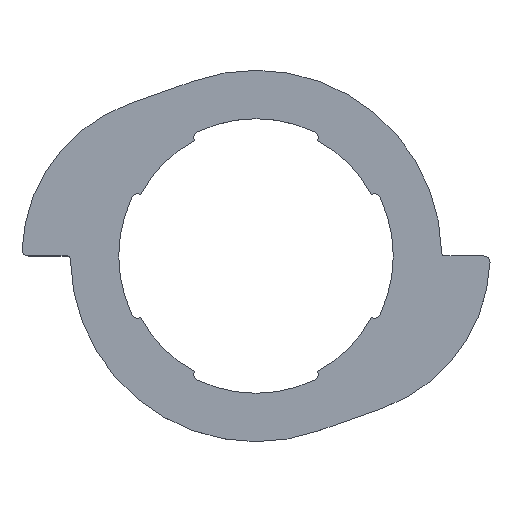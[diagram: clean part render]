
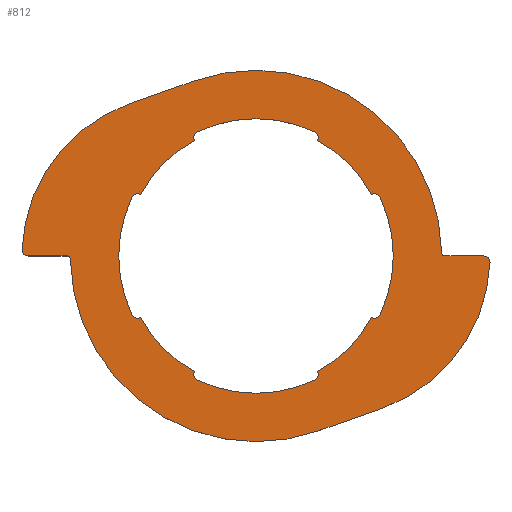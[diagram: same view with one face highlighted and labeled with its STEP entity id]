
A CAD part, top view. The second image highlights one B-rep face of the part: STEP entity #812.
In plain terms, the highlighted planar face has unit normal (0, 0, 1).
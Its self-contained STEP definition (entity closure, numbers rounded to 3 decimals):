
#116=CARTESIAN_POINT('',(58.491,1.,1.25));
#117=DIRECTION('',(0.,0.,-1.));
#118=DIRECTION('',(0.,-1.,0.));
#119=AXIS2_PLACEMENT_3D('',#116,#117,#118);
#150=CARTESIAN_POINT('',(-58.491,-1.,1.25));
#151=DIRECTION('',(0.,0.,-1.));
#152=DIRECTION('',(0.,1.,0.));
#153=AXIS2_PLACEMENT_3D('',#150,#151,#152);
#163=CARTESIAN_POINT('',(-22.5,0.,1.25));
#164=DIRECTION('',(0.,0.,1.));
#165=DIRECTION('',(-0.333,0.943,0.));
#166=AXIS2_PLACEMENT_3D('',#163,#164,#165);
#168=DIRECTION('',(-0.943,-0.333,0.));
#169=VECTOR('',#168,21.213);
#170=CARTESIAN_POINT('',(-19.167,54.212,1.25));
#171=LINE('',#170,#169);
#172=CARTESIAN_POINT('',(0.,0.,1.25));
#173=DIRECTION('',(0.,0.,1.));
#174=DIRECTION('',(1.,0.017,0.));
#175=AXIS2_PLACEMENT_3D('',#172,#173,#174);
#177=DIRECTION('',(-1.,0.,0.));
#178=VECTOR('',#177,11.967);
#179=CARTESIAN_POINT('',(70.458,0.,1.25));
#180=LINE('',#179,#178);
#181=CARTESIAN_POINT('',(70.458,-2.,1.25));
#182=DIRECTION('',(0.,0.,1.));
#183=DIRECTION('',(0.999,-0.042,0.));
#184=AXIS2_PLACEMENT_3D('',#181,#182,#183);
#186=CARTESIAN_POINT('',(22.5,0.,1.25));
#187=DIRECTION('',(0.,0.,1.));
#188=DIRECTION('',(0.333,-0.943,0.));
#189=AXIS2_PLACEMENT_3D('',#186,#187,#188);
#191=DIRECTION('',(0.943,0.333,0.));
#192=VECTOR('',#191,21.213);
#193=CARTESIAN_POINT('',(19.167,-54.212,1.25));
#194=LINE('',#193,#192);
#195=CARTESIAN_POINT('',(0.,0.,1.25));
#196=DIRECTION('',(0.,0.,1.));
#197=DIRECTION('',(-1.,-0.017,0.));
#198=AXIS2_PLACEMENT_3D('',#195,#196,#197);
#200=DIRECTION('',(1.,0.,0.));
#201=VECTOR('',#200,11.967);
#202=CARTESIAN_POINT('',(-70.458,0.,1.25));
#203=LINE('',#202,#201);
#204=CARTESIAN_POINT('',(-70.458,2.,1.25));
#205=DIRECTION('',(0.,0.,1.));
#206=DIRECTION('',(-0.999,0.042,0.));
#207=AXIS2_PLACEMENT_3D('',#204,#205,#206);
#209=CARTESIAN_POINT('',(0.,0.,1.25));
#210=DIRECTION('',(0.,0.,1.));
#211=DIRECTION('',(0.426,0.905,0.));
#212=AXIS2_PLACEMENT_3D('',#209,#210,#211);
#214=CARTESIAN_POINT('',(0.,0.,1.25));
#215=DIRECTION('',(0.,0.,1.));
#216=DIRECTION('',(-0.905,0.426,0.));
#217=AXIS2_PLACEMENT_3D('',#214,#215,#216);
#219=CARTESIAN_POINT('',(0.,0.,1.25));
#220=DIRECTION('',(0.,0.,1.));
#221=DIRECTION('',(-0.426,-0.905,0.));
#222=AXIS2_PLACEMENT_3D('',#219,#220,#221);
#224=CARTESIAN_POINT('',(0.,0.,1.25));
#225=DIRECTION('',(0.,0.,1.));
#226=DIRECTION('',(0.905,-0.426,0.));
#227=AXIS2_PLACEMENT_3D('',#224,#225,#226);
#242=CARTESIAN_POINT('',(0.,0.,1.25));
#243=DIRECTION('',(0.,0.,-1.));
#244=DIRECTION('',(-0.882,0.471,0.));
#245=AXIS2_PLACEMENT_3D('',#242,#243,#244);
#251=CARTESIAN_POINT('',(0.,0.,1.25));
#252=DIRECTION('',(0.,0.,-1.));
#253=DIRECTION('',(0.471,0.882,0.));
#254=AXIS2_PLACEMENT_3D('',#251,#252,#253);
#269=CARTESIAN_POINT('',(0.,0.,1.25));
#270=DIRECTION('',(0.,0.,-1.));
#271=DIRECTION('',(0.882,-0.471,0.));
#272=AXIS2_PLACEMENT_3D('',#269,#270,#271);
#287=CARTESIAN_POINT('',(0.,0.,1.25));
#288=DIRECTION('',(0.,0.,-1.));
#289=DIRECTION('',(-0.471,-0.882,0.));
#290=AXIS2_PLACEMENT_3D('',#287,#288,#289);
#301=CARTESIAN_POINT('',(-17.271,36.633,1.25));
#302=DIRECTION('',(0.,0.,-1.));
#303=DIRECTION('',(-0.894,-0.449,0.));
#304=AXIS2_PLACEMENT_3D('',#301,#302,#303);
#319=CARTESIAN_POINT('',(17.271,36.633,1.25));
#320=DIRECTION('',(0.,0.,-1.));
#321=DIRECTION('',(0.426,0.905,0.));
#322=AXIS2_PLACEMENT_3D('',#319,#320,#321);
#329=CARTESIAN_POINT('',(-36.633,17.271,1.25));
#330=DIRECTION('',(0.,0.,-1.));
#331=DIRECTION('',(-0.905,0.426,0.));
#332=AXIS2_PLACEMENT_3D('',#329,#330,#331);
#347=CARTESIAN_POINT('',(-36.633,-17.271,1.25));
#348=DIRECTION('',(0.,0.,-1.));
#349=DIRECTION('',(0.449,-0.894,0.));
#350=AXIS2_PLACEMENT_3D('',#347,#348,#349);
#357=CARTESIAN_POINT('',(36.633,17.271,1.25));
#358=DIRECTION('',(0.,0.,-1.));
#359=DIRECTION('',(-0.449,0.894,0.));
#360=AXIS2_PLACEMENT_3D('',#357,#358,#359);
#375=CARTESIAN_POINT('',(36.633,-17.271,1.25));
#376=DIRECTION('',(0.,0.,-1.));
#377=DIRECTION('',(0.905,-0.426,0.));
#378=AXIS2_PLACEMENT_3D('',#375,#376,#377);
#385=CARTESIAN_POINT('',(17.271,-36.633,1.25));
#386=DIRECTION('',(0.,0.,-1.));
#387=DIRECTION('',(0.894,0.449,0.));
#388=AXIS2_PLACEMENT_3D('',#385,#386,#387);
#403=CARTESIAN_POINT('',(-17.271,-36.633,1.25));
#404=DIRECTION('',(0.,0.,-1.));
#405=DIRECTION('',(-0.426,-0.905,0.));
#406=AXIS2_PLACEMENT_3D('',#403,#404,#405);
#429=CARTESIAN_POINT('',(57.492,0.983,1.25));
#430=CARTESIAN_POINT('',(-19.167,54.212,1.25));
#431=VERTEX_POINT('',#429);
#432=VERTEX_POINT('',#430);
#433=CARTESIAN_POINT('',(-39.167,47.14,1.25));
#434=CARTESIAN_POINT('',(-72.457,2.083,1.25));
#435=VERTEX_POINT('',#433);
#436=VERTEX_POINT('',#434);
#437=CARTESIAN_POINT('',(-57.492,-0.983,1.25));
#438=CARTESIAN_POINT('',(19.167,-54.212,1.25));
#439=VERTEX_POINT('',#437);
#440=VERTEX_POINT('',#438);
#441=CARTESIAN_POINT('',(39.167,-47.14,1.25));
#442=CARTESIAN_POINT('',(72.457,-2.083,1.25));
#443=VERTEX_POINT('',#441);
#444=VERTEX_POINT('',#442);
#446=CARTESIAN_POINT('',(-58.491,0.,1.25));
#448=VERTEX_POINT('',#446);
#450=CARTESIAN_POINT('',(58.491,0.,1.25));
#452=VERTEX_POINT('',#450);
#455=CARTESIAN_POINT('',(-70.458,0.,1.25));
#456=VERTEX_POINT('',#455);
#459=CARTESIAN_POINT('',(70.458,0.,1.25));
#460=VERTEX_POINT('',#459);
#461=CARTESIAN_POINT('',(-19.059,35.735,1.25));
#463=VERTEX_POINT('',#461);
#465=CARTESIAN_POINT('',(-18.124,38.442,1.25));
#467=VERTEX_POINT('',#465);
#469=CARTESIAN_POINT('',(18.124,38.442,1.25));
#471=VERTEX_POINT('',#469);
#473=CARTESIAN_POINT('',(19.059,35.735,1.25));
#475=VERTEX_POINT('',#473);
#477=CARTESIAN_POINT('',(35.735,19.059,1.25));
#479=VERTEX_POINT('',#477);
#481=CARTESIAN_POINT('',(38.442,18.124,1.25));
#483=VERTEX_POINT('',#481);
#485=CARTESIAN_POINT('',(38.442,-18.124,1.25));
#487=VERTEX_POINT('',#485);
#489=CARTESIAN_POINT('',(35.735,-19.059,1.25));
#491=VERTEX_POINT('',#489);
#493=CARTESIAN_POINT('',(19.059,-35.735,1.25));
#495=VERTEX_POINT('',#493);
#497=CARTESIAN_POINT('',(18.124,-38.442,1.25));
#499=VERTEX_POINT('',#497);
#501=CARTESIAN_POINT('',(-18.124,-38.442,1.25));
#503=VERTEX_POINT('',#501);
#505=CARTESIAN_POINT('',(-19.059,-35.735,1.25));
#507=VERTEX_POINT('',#505);
#509=CARTESIAN_POINT('',(-35.735,-19.059,1.25));
#511=VERTEX_POINT('',#509);
#513=CARTESIAN_POINT('',(-38.442,-18.124,1.25));
#515=VERTEX_POINT('',#513);
#517=CARTESIAN_POINT('',(-38.442,18.124,1.25));
#519=VERTEX_POINT('',#517);
#521=CARTESIAN_POINT('',(-35.735,19.059,1.25));
#523=VERTEX_POINT('',#521);
#759=CARTESIAN_POINT('',(0.,0.,1.25));
#760=DIRECTION('',(0.,0.,1.));
#761=DIRECTION('',(1.,0.,0.));
#762=AXIS2_PLACEMENT_3D('',#759,#760,#761);
#763=PLANE('',#762);
#764=ORIENTED_EDGE('',*,*,#599,.F.);
#765=ORIENTED_EDGE('',*,*,#614,.F.);
#766=ORIENTED_EDGE('',*,*,#628,.F.);
#767=ORIENTED_EDGE('',*,*,#643,.F.);
#768=ORIENTED_EDGE('',*,*,#655,.F.);
#769=ORIENTED_EDGE('',*,*,#670,.F.);
#770=ORIENTED_EDGE('',*,*,#684,.F.);
#771=ORIENTED_EDGE('',*,*,#698,.F.);
#772=ORIENTED_EDGE('',*,*,#712,.F.);
#773=ORIENTED_EDGE('',*,*,#727,.F.);
#774=ORIENTED_EDGE('',*,*,#739,.F.);
#775=ORIENTED_EDGE('',*,*,#753,.F.);
#776=EDGE_LOOP('',(#764,#765,#766,#767,#768,#769,#770,#771,#772,#773,#774,
#775));
#777=FACE_OUTER_BOUND('',#776,.F.);
#779=ORIENTED_EDGE('',*,*,#778,.F.);
#781=ORIENTED_EDGE('',*,*,#780,.F.);
#783=ORIENTED_EDGE('',*,*,#782,.T.);
#785=ORIENTED_EDGE('',*,*,#784,.F.);
#787=ORIENTED_EDGE('',*,*,#786,.F.);
#789=ORIENTED_EDGE('',*,*,#788,.F.);
#791=ORIENTED_EDGE('',*,*,#790,.T.);
#793=ORIENTED_EDGE('',*,*,#792,.F.);
#795=ORIENTED_EDGE('',*,*,#794,.F.);
#797=ORIENTED_EDGE('',*,*,#796,.F.);
#799=ORIENTED_EDGE('',*,*,#798,.T.);
#801=ORIENTED_EDGE('',*,*,#800,.F.);
#803=ORIENTED_EDGE('',*,*,#802,.F.);
#805=ORIENTED_EDGE('',*,*,#804,.F.);
#807=ORIENTED_EDGE('',*,*,#806,.T.);
#809=ORIENTED_EDGE('',*,*,#808,.F.);
#810=EDGE_LOOP('',(#779,#781,#783,#785,#787,#789,#791,#793,#795,#797,#799,#801,
#803,#805,#807,#809));
#811=FACE_BOUND('',#810,.F.);
#120=CIRCLE('',#119,1.);
#154=CIRCLE('',#153,1.);
#167=CIRCLE('',#166,50.);
#176=CIRCLE('',#175,57.5);
#185=CIRCLE('',#184,2.);
#190=CIRCLE('',#189,50.);
#199=CIRCLE('',#198,57.5);
#208=CIRCLE('',#207,2.);
#213=CIRCLE('',#212,42.5);
#218=CIRCLE('',#217,42.5);
#223=CIRCLE('',#222,42.5);
#228=CIRCLE('',#227,42.5);
#246=CIRCLE('',#245,40.5);
#255=CIRCLE('',#254,40.5);
#273=CIRCLE('',#272,40.5);
#291=CIRCLE('',#290,40.5);
#305=CIRCLE('',#304,2.);
#323=CIRCLE('',#322,2.);
#333=CIRCLE('',#332,2.);
#351=CIRCLE('',#350,2.);
#361=CIRCLE('',#360,2.);
#379=CIRCLE('',#378,2.);
#389=CIRCLE('',#388,2.);
#407=CIRCLE('',#406,2.);
#599=EDGE_CURVE('',#435,#436,#167,.T.);
#614=EDGE_CURVE('',#432,#435,#171,.T.);
#628=EDGE_CURVE('',#431,#432,#176,.T.);
#643=EDGE_CURVE('',#452,#431,#120,.T.);
#655=EDGE_CURVE('',#460,#452,#180,.T.);
#670=EDGE_CURVE('',#444,#460,#185,.T.);
#684=EDGE_CURVE('',#443,#444,#190,.T.);
#698=EDGE_CURVE('',#440,#443,#194,.T.);
#712=EDGE_CURVE('',#439,#440,#199,.T.);
#727=EDGE_CURVE('',#448,#439,#154,.T.);
#739=EDGE_CURVE('',#456,#448,#203,.T.);
#753=EDGE_CURVE('',#436,#456,#208,.T.);
#778=EDGE_CURVE('',#475,#479,#255,.T.);
#780=EDGE_CURVE('',#471,#475,#323,.T.);
#782=EDGE_CURVE('',#471,#467,#213,.T.);
#784=EDGE_CURVE('',#463,#467,#305,.T.);
#786=EDGE_CURVE('',#523,#463,#246,.T.);
#788=EDGE_CURVE('',#519,#523,#333,.T.);
#790=EDGE_CURVE('',#519,#515,#218,.T.);
#792=EDGE_CURVE('',#511,#515,#351,.T.);
#794=EDGE_CURVE('',#507,#511,#291,.T.);
#796=EDGE_CURVE('',#503,#507,#407,.T.);
#798=EDGE_CURVE('',#503,#499,#223,.T.);
#800=EDGE_CURVE('',#495,#499,#389,.T.);
#802=EDGE_CURVE('',#491,#495,#273,.T.);
#804=EDGE_CURVE('',#487,#491,#379,.T.);
#806=EDGE_CURVE('',#487,#483,#228,.T.);
#808=EDGE_CURVE('',#479,#483,#361,.T.);
#812=ADVANCED_FACE('',(#777,#811),#763,.T.);
